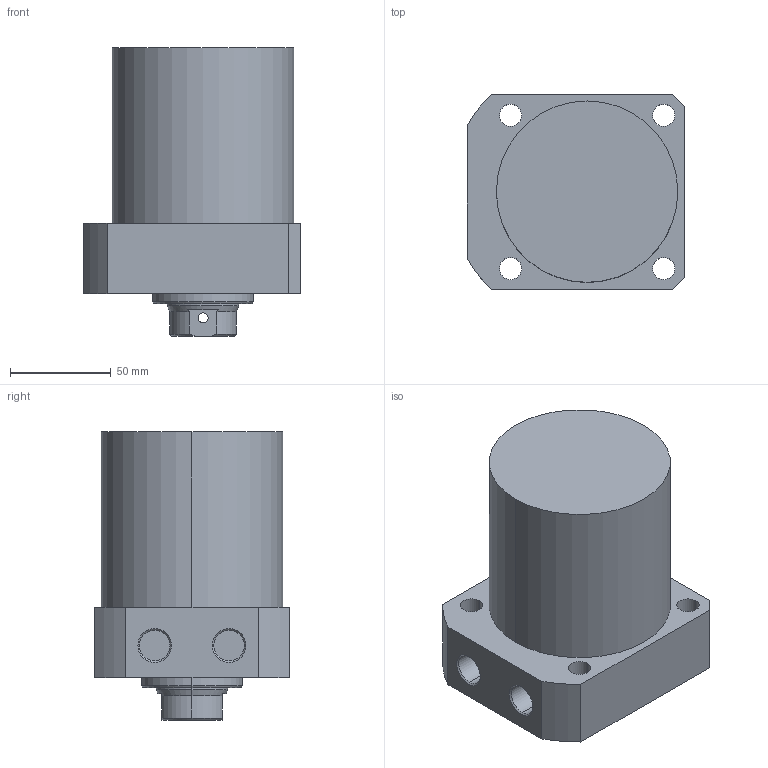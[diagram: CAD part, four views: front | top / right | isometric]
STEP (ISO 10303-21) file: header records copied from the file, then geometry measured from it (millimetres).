
FILE_DESCRIPTION (( 'STEP AP203' ), '1' );
FILE_NAME ('CLLR-090CB-065.STEP', '2019-12-19T02:33:41', ( '' ), ( '' ), 'SwSTEP 2.0', 'SolidWorks 2015', '' );
FILE_SCHEMA (( 'CONFIG_CONTROL_DESIGN' ));
Length unit declared in the file: millimetre
Products named in the file (1): CLLR-090CB-065
Bounding box: 108 x 97 x 143 mm (x, y, z)
Volume: 903484.2 mm3; surface area: 69784.3 mm2
Topology: 1 solids, 1 shells, 67 faces, 161 edges, 102 vertices
Faces by surface type: cylinder 33, plane 19, cone 15
Entity records: 2179 total; most frequent: CARTESIAN_POINT 477, DIRECTION 360, ORIENTED_EDGE 318, EDGE_CURVE 159, AXIS2_PLACEMENT_3D 145, VERTEX_POINT 102, EDGE_LOOP 87, CIRCLE 77
